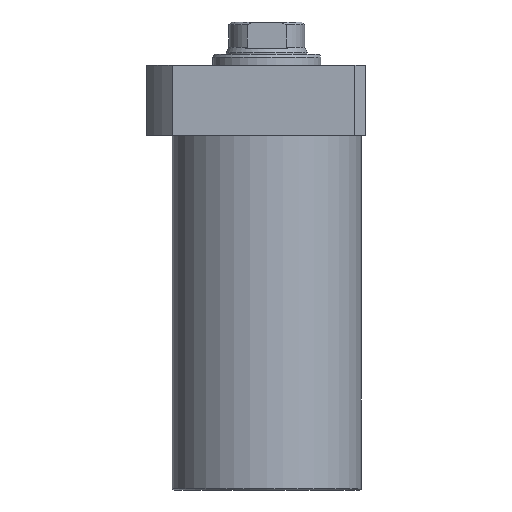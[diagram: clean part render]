
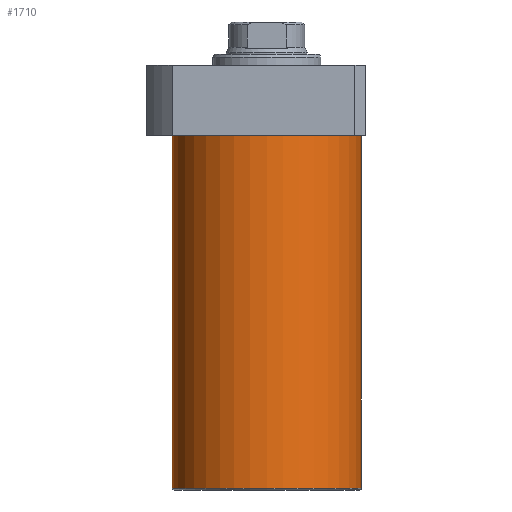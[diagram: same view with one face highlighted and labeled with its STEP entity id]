
A CAD part, front view. The second image highlights one B-rep face of the part: STEP entity #1710.
In plain terms, the highlighted cylindrical face has radius 52.5 mm (diameter 105 mm), a partial arc.
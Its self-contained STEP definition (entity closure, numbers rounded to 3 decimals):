
#6 = DIRECTION ( 'NONE',  ( 1., 0., 0. ) ) ;
#39 = DIRECTION ( 'NONE',  ( 1., 0., 0. ) ) ;
#178 = ORIENTED_EDGE ( 'NONE', *, *, #253, .T. ) ;
#183 = CARTESIAN_POINT ( 'NONE',  ( 52.5, 0., -215.5 ) ) ;
#253 = EDGE_CURVE ( 'NONE', #336, #1705, #1521, .T. ) ;
#278 = CARTESIAN_POINT ( 'NONE',  ( -52.5, 0., -19.5 ) ) ;
#282 = VERTEX_POINT ( 'NONE', #278 ) ;
#336 = VERTEX_POINT ( 'NONE', #1716 ) ;
#426 = AXIS2_PLACEMENT_3D ( 'NONE', #485, #1087, #6 ) ;
#436 = DIRECTION ( 'NONE',  ( 0., 0., 1. ) ) ;
#485 = CARTESIAN_POINT ( 'NONE',  ( 0., 0., -216.5 ) ) ;
#486 = AXIS2_PLACEMENT_3D ( 'NONE', #1931, #1316, #1322 ) ;
#548 = VECTOR ( 'NONE', #1894, 1000. ) ;
#638 = ORIENTED_EDGE ( 'NONE', *, *, #901, .F. ) ;
#694 = CARTESIAN_POINT ( 'NONE',  ( -52.5, 0., -216.5 ) ) ;
#746 = CARTESIAN_POINT ( 'NONE',  ( 52.5, 0., -19.5 ) ) ;
#775 = EDGE_LOOP ( 'NONE', ( #638, #178, #1637, #828 ) ) ;
#828 = ORIENTED_EDGE ( 'NONE', *, *, #1747, .T. ) ;
#901 = EDGE_CURVE ( 'NONE', #336, #282, #995, .T. ) ;
#995 = LINE ( 'NONE', #694, #548 ) ;
#1008 = VECTOR ( 'NONE', #436, 1000. ) ;
#1082 = VERTEX_POINT ( 'NONE', #746 ) ;
#1087 = DIRECTION ( 'NONE',  ( 0., 0., 1. ) ) ;
#1163 = CARTESIAN_POINT ( 'NONE',  ( 52.5, 0., -216.5 ) ) ;
#1168 = FACE_OUTER_BOUND ( 'NONE', #775, .T. ) ;
#1236 = CIRCLE ( 'NONE', #1282, 52.5 ) ;
#1282 = AXIS2_PLACEMENT_3D ( 'NONE', #1408, #1860, #39 ) ;
#1289 = CYLINDRICAL_SURFACE ( 'NONE', #426, 52.5 ) ;
#1316 = DIRECTION ( 'NONE',  ( 0., 0., 1. ) ) ;
#1322 = DIRECTION ( 'NONE',  ( -1., 0., 0. ) ) ;
#1408 = CARTESIAN_POINT ( 'NONE',  ( 0., 0., -19.5 ) ) ;
#1521 = CIRCLE ( 'NONE', #486, 52.5 ) ;
#1564 = LINE ( 'NONE', #1163, #1008 ) ;
#1637 = ORIENTED_EDGE ( 'NONE', *, *, #1971, .T. ) ;
#1705 = VERTEX_POINT ( 'NONE', #183 ) ;
#1710 = ADVANCED_FACE ( 'NONE', ( #1168 ), #1289, .T. ) ;
#1716 = CARTESIAN_POINT ( 'NONE',  ( -52.5, 0., -215.5 ) ) ;
#1747 = EDGE_CURVE ( 'NONE', #1082, #282, #1236, .T. ) ;
#1860 = DIRECTION ( 'NONE',  ( 0., 0., -1. ) ) ;
#1894 = DIRECTION ( 'NONE',  ( 0., 0., 1. ) ) ;
#1931 = CARTESIAN_POINT ( 'NONE',  ( 0., 0., -215.5 ) ) ;
#1971 = EDGE_CURVE ( 'NONE', #1705, #1082, #1564, .T. ) ;
